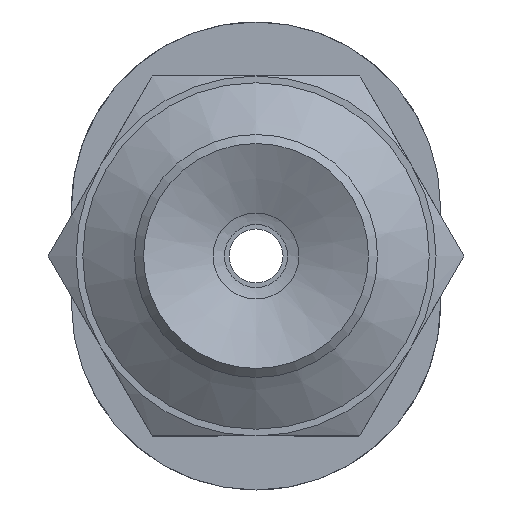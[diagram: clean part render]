
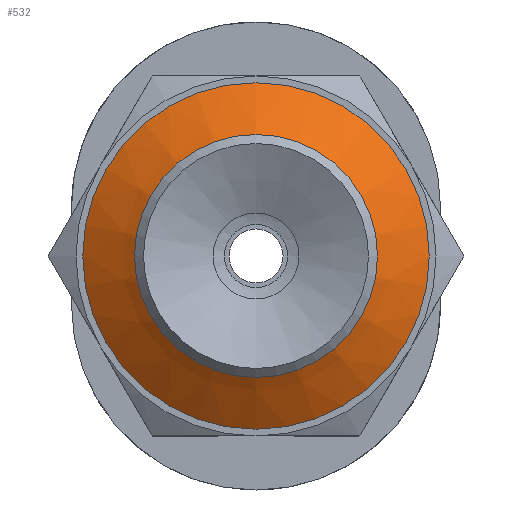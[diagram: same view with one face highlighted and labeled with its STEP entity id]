
A CAD part, front view. The second image highlights one B-rep face of the part: STEP entity #532.
In plain terms, the highlighted conical face has half-angle 55 degrees and reference radius 1.794 mm.
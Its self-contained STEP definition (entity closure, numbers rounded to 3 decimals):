
#532=ADVANCED_FACE('',(#782,#783),#784,.T.);
#782=FACE_BOUND('',#1137,.T.);
#783=FACE_OUTER_BOUND('',#1138,.T.);
#784=CONICAL_SURFACE('',#1139,1.794,0.96);
#1137=EDGE_LOOP('',(#2067));
#1138=EDGE_LOOP('',(#2068));
#1139=AXIS2_PLACEMENT_3D('',#2069,#2070,#2071);
#2067=ORIENTED_EDGE('',*,*,#2596,.T.);
#2068=ORIENTED_EDGE('',*,*,#2593,.T.);
#2069=CARTESIAN_POINT('',(0.0,7.118,0.));
#2070=DIRECTION('',(0.0,1.0,0.));
#2071=DIRECTION('',(0.0,0.,1.0));
#2593=EDGE_CURVE('',#2926,#2926,#2927,.T.);
#2596=EDGE_CURVE('',#2932,#2932,#2933,.T.);
#2926=VERTEX_POINT('',#3636);
#2927=CIRCLE('',#3637,3.85);
#2932=VERTEX_POINT('',#3642);
#2933=CIRCLE('',#3643,2.114);
#3636=CARTESIAN_POINT('',(0.0,8.558,-3.85));
#3637=AXIS2_PLACEMENT_3D('',#4286,#4287,#4288);
#3642=CARTESIAN_POINT('',(0.0,7.342,2.114));
#3643=AXIS2_PLACEMENT_3D('',#4295,#4296,#4297);
#4286=CARTESIAN_POINT('',(0.0,8.558,0.));
#4287=DIRECTION('',(0.0,-1.0,0.));
#4288=DIRECTION('',(0.0,0.,-1.0));
#4295=CARTESIAN_POINT('',(0.0,7.342,0.));
#4296=DIRECTION('',(0.0,1.0,0.));
#4297=DIRECTION('',(0.0,0.,1.0));
